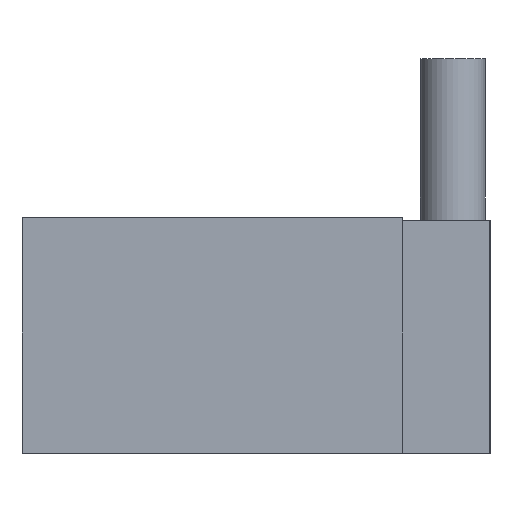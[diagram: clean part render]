
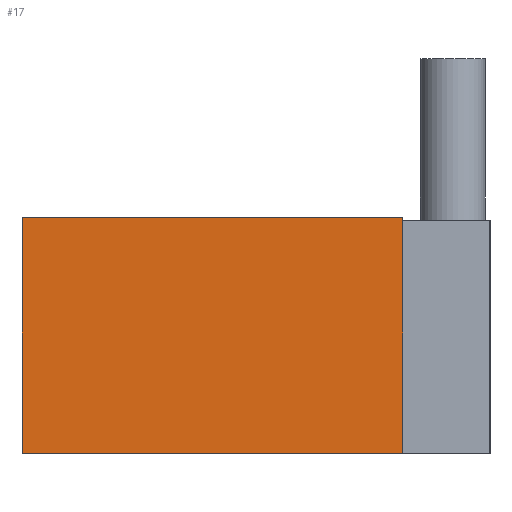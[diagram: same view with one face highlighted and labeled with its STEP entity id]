
A CAD part, left-side view. The second image highlights one B-rep face of the part: STEP entity #17.
In plain terms, the highlighted planar face has unit normal (-1, 0, 0).
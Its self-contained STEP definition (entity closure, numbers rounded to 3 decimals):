
#17 = ADVANCED_FACE('',(#18),#32,.F.);
#18 = FACE_BOUND('',#19,.F.);
#19 = EDGE_LOOP('',(#20,#55,#83,#111));
#20 = ORIENTED_EDGE('',*,*,#21,.F.);
#21 = EDGE_CURVE('',#22,#24,#26,.T.);
#22 = VERTEX_POINT('',#23);
#23 = CARTESIAN_POINT('',(-15.045,4.915,4.95));
#24 = VERTEX_POINT('',#25);
#25 = CARTESIAN_POINT('',(-15.045,4.915,0.));
#26 = SURFACE_CURVE('',#27,(#31,#43),.PCURVE_S1.);
#27 = LINE('',#28,#29);
#28 = CARTESIAN_POINT('',(-15.045,4.915,4.95));
#29 = VECTOR('',#30,1.);
#30 = DIRECTION('',(0.,0.,-1.));
#31 = PCURVE('',#32,#37);
#32 = PLANE('',#33);
#33 = AXIS2_PLACEMENT_3D('',#34,#35,#36);
#34 = CARTESIAN_POINT('',(-15.045,4.915,4.95));
#35 = DIRECTION('',(1.,0.,0.));
#36 = DIRECTION('',(0.,0.,-1.));
#37 = DEFINITIONAL_REPRESENTATION('',(#38),#42);
#38 = LINE('',#39,#40);
#39 = CARTESIAN_POINT('',(0.,0.));
#40 = VECTOR('',#41,1.);
#41 = DIRECTION('',(1.,0.));
#42 = ( GEOMETRIC_REPRESENTATION_CONTEXT(2) 
PARAMETRIC_REPRESENTATION_CONTEXT() REPRESENTATION_CONTEXT('2D SPACE',''
  ) );
#43 = PCURVE('',#44,#49);
#44 = PLANE('',#45);
#45 = AXIS2_PLACEMENT_3D('',#46,#47,#48);
#46 = CARTESIAN_POINT('',(-15.045,4.915,4.95));
#47 = DIRECTION('',(0.,-1.,0.));
#48 = DIRECTION('',(0.,0.,-1.));
#49 = DEFINITIONAL_REPRESENTATION('',(#50),#54);
#50 = LINE('',#51,#52);
#51 = CARTESIAN_POINT('',(0.,0.));
#52 = VECTOR('',#53,1.);
#53 = DIRECTION('',(1.,0.));
#54 = ( GEOMETRIC_REPRESENTATION_CONTEXT(2) 
PARAMETRIC_REPRESENTATION_CONTEXT() REPRESENTATION_CONTEXT('2D SPACE',''
  ) );
#55 = ORIENTED_EDGE('',*,*,#56,.T.);
#56 = EDGE_CURVE('',#22,#57,#59,.T.);
#57 = VERTEX_POINT('',#58);
#58 = CARTESIAN_POINT('',(-15.045,-3.085,4.95));
#59 = SURFACE_CURVE('',#60,(#64,#71),.PCURVE_S1.);
#60 = LINE('',#61,#62);
#61 = CARTESIAN_POINT('',(-15.045,4.915,4.95));
#62 = VECTOR('',#63,1.);
#63 = DIRECTION('',(0.,-1.,0.));
#64 = PCURVE('',#32,#65);
#65 = DEFINITIONAL_REPRESENTATION('',(#66),#70);
#66 = LINE('',#67,#68);
#67 = CARTESIAN_POINT('',(0.,0.));
#68 = VECTOR('',#69,1.);
#69 = DIRECTION('',(0.,-1.));
#70 = ( GEOMETRIC_REPRESENTATION_CONTEXT(2) 
PARAMETRIC_REPRESENTATION_CONTEXT() REPRESENTATION_CONTEXT('2D SPACE',''
  ) );
#71 = PCURVE('',#72,#77);
#72 = PLANE('',#73);
#73 = AXIS2_PLACEMENT_3D('',#74,#75,#76);
#74 = CARTESIAN_POINT('',(-15.045,4.915,4.95));
#75 = DIRECTION('',(0.,0.,-1.));
#76 = DIRECTION('',(1.,0.,0.));
#77 = DEFINITIONAL_REPRESENTATION('',(#78),#82);
#78 = LINE('',#79,#80);
#79 = CARTESIAN_POINT('',(0.,0.));
#80 = VECTOR('',#81,1.);
#81 = DIRECTION('',(0.,1.));
#82 = ( GEOMETRIC_REPRESENTATION_CONTEXT(2) 
PARAMETRIC_REPRESENTATION_CONTEXT() REPRESENTATION_CONTEXT('2D SPACE',''
  ) );
#83 = ORIENTED_EDGE('',*,*,#84,.T.);
#84 = EDGE_CURVE('',#57,#85,#87,.T.);
#85 = VERTEX_POINT('',#86);
#86 = CARTESIAN_POINT('',(-15.045,-3.085,0.));
#87 = SURFACE_CURVE('',#88,(#92,#99),.PCURVE_S1.);
#88 = LINE('',#89,#90);
#89 = CARTESIAN_POINT('',(-15.045,-3.085,4.95));
#90 = VECTOR('',#91,1.);
#91 = DIRECTION('',(0.,0.,-1.));
#92 = PCURVE('',#32,#93);
#93 = DEFINITIONAL_REPRESENTATION('',(#94),#98);
#94 = LINE('',#95,#96);
#95 = CARTESIAN_POINT('',(0.,-8.));
#96 = VECTOR('',#97,1.);
#97 = DIRECTION('',(1.,0.));
#98 = ( GEOMETRIC_REPRESENTATION_CONTEXT(2) 
PARAMETRIC_REPRESENTATION_CONTEXT() REPRESENTATION_CONTEXT('2D SPACE',''
  ) );
#99 = PCURVE('',#100,#105);
#100 = PLANE('',#101);
#101 = AXIS2_PLACEMENT_3D('',#102,#103,#104);
#102 = CARTESIAN_POINT('',(-15.045,-3.085,4.95));
#103 = DIRECTION('',(0.,-1.,0.));
#104 = DIRECTION('',(0.,0.,-1.));
#105 = DEFINITIONAL_REPRESENTATION('',(#106),#110);
#106 = LINE('',#107,#108);
#107 = CARTESIAN_POINT('',(0.,0.));
#108 = VECTOR('',#109,1.);
#109 = DIRECTION('',(1.,0.));
#110 = ( GEOMETRIC_REPRESENTATION_CONTEXT(2) 
PARAMETRIC_REPRESENTATION_CONTEXT() REPRESENTATION_CONTEXT('2D SPACE',''
  ) );
#111 = ORIENTED_EDGE('',*,*,#112,.F.);
#112 = EDGE_CURVE('',#24,#85,#113,.T.);
#113 = SURFACE_CURVE('',#114,(#118,#125),.PCURVE_S1.);
#114 = LINE('',#115,#116);
#115 = CARTESIAN_POINT('',(-15.045,4.915,0.));
#116 = VECTOR('',#117,1.);
#117 = DIRECTION('',(0.,-1.,0.));
#118 = PCURVE('',#32,#119);
#119 = DEFINITIONAL_REPRESENTATION('',(#120),#124);
#120 = LINE('',#121,#122);
#121 = CARTESIAN_POINT('',(4.95,0.));
#122 = VECTOR('',#123,1.);
#123 = DIRECTION('',(0.,-1.));
#124 = ( GEOMETRIC_REPRESENTATION_CONTEXT(2) 
PARAMETRIC_REPRESENTATION_CONTEXT() REPRESENTATION_CONTEXT('2D SPACE',''
  ) );
#125 = PCURVE('',#126,#131);
#126 = PLANE('',#127);
#127 = AXIS2_PLACEMENT_3D('',#128,#129,#130);
#128 = CARTESIAN_POINT('',(-15.045,4.915,0.));
#129 = DIRECTION('',(0.,0.,-1.));
#130 = DIRECTION('',(1.,0.,0.));
#131 = DEFINITIONAL_REPRESENTATION('',(#132),#136);
#132 = LINE('',#133,#134);
#133 = CARTESIAN_POINT('',(0.,0.));
#134 = VECTOR('',#135,1.);
#135 = DIRECTION('',(0.,1.));
#136 = ( GEOMETRIC_REPRESENTATION_CONTEXT(2) 
PARAMETRIC_REPRESENTATION_CONTEXT() REPRESENTATION_CONTEXT('2D SPACE',''
  ) );
